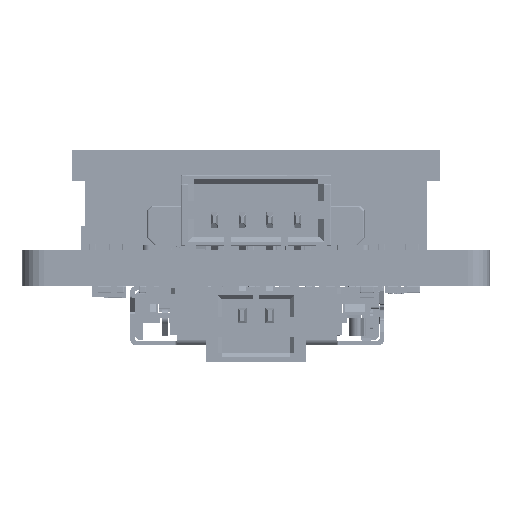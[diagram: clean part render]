
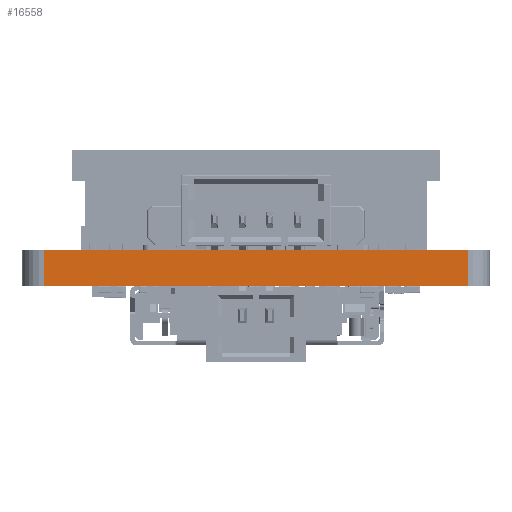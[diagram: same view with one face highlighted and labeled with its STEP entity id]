
A CAD part, front view. The second image highlights one B-rep face of the part: STEP entity #16558.
In plain terms, the highlighted planar face has unit normal (0.001, -1, 0).
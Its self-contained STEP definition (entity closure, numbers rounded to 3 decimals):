
#1725=DIRECTION('',(0.,0.,-1.));
#1726=VECTOR('',#1725,1.6);
#1727=CARTESIAN_POINT('',(20.,0.,1.6));
#1728=LINE('',#1727,#1726);
#1732=DIRECTION('',(-1.,0.,0.));
#1733=VECTOR('',#1732,19.);
#1734=CARTESIAN_POINT('',(20.,0.,0.));
#1735=LINE('',#1734,#1733);
#1739=DIRECTION('',(0.,0.,-1.));
#1740=VECTOR('',#1739,1.6);
#1741=CARTESIAN_POINT('',(1.,-0.009,1.6));
#1742=LINE('',#1741,#1740);
#4847=DIRECTION('',(1.,0.,0.));
#4848=VECTOR('',#4847,19.);
#4849=CARTESIAN_POINT('',(1.,-0.009,1.6));
#4850=LINE('',#4849,#4848);
#12165=CARTESIAN_POINT('',(1.,-0.009,1.6));
#12166=VERTEX_POINT('',#12165);
#12167=CARTESIAN_POINT('',(1.,-0.009,0.));
#12168=VERTEX_POINT('',#12167);
#12169=CARTESIAN_POINT('',(20.,0.,1.6));
#12170=VERTEX_POINT('',#12169);
#12171=CARTESIAN_POINT('',(20.,0.,0.));
#12172=VERTEX_POINT('',#12171);
#16544=CARTESIAN_POINT('',(1.,-0.009,0.));
#16545=DIRECTION('',(0.,1.,0.));
#16546=DIRECTION('',(1.,0.,0.));
#16547=AXIS2_PLACEMENT_3D('',#16544,#16545,#16546);
#16548=PLANE('',#16547);
#16550=ORIENTED_EDGE('',*,*,#16549,.F.);
#16552=ORIENTED_EDGE('',*,*,#16551,.T.);
#16553=ORIENTED_EDGE('',*,*,#16534,.T.);
#16555=ORIENTED_EDGE('',*,*,#16554,.T.);
#16556=EDGE_LOOP('',(#16550,#16552,#16553,#16555));
#16557=FACE_OUTER_BOUND('',#16556,.F.);
#16558=ADVANCED_FACE('',(#16557),#16548,.F.);
#16534=EDGE_CURVE('',#12170,#12172,#1728,.T.);
#16549=EDGE_CURVE('',#12166,#12168,#1742,.T.);
#16551=EDGE_CURVE('',#12166,#12170,#4850,.T.);
#16554=EDGE_CURVE('',#12172,#12168,#1735,.T.);
